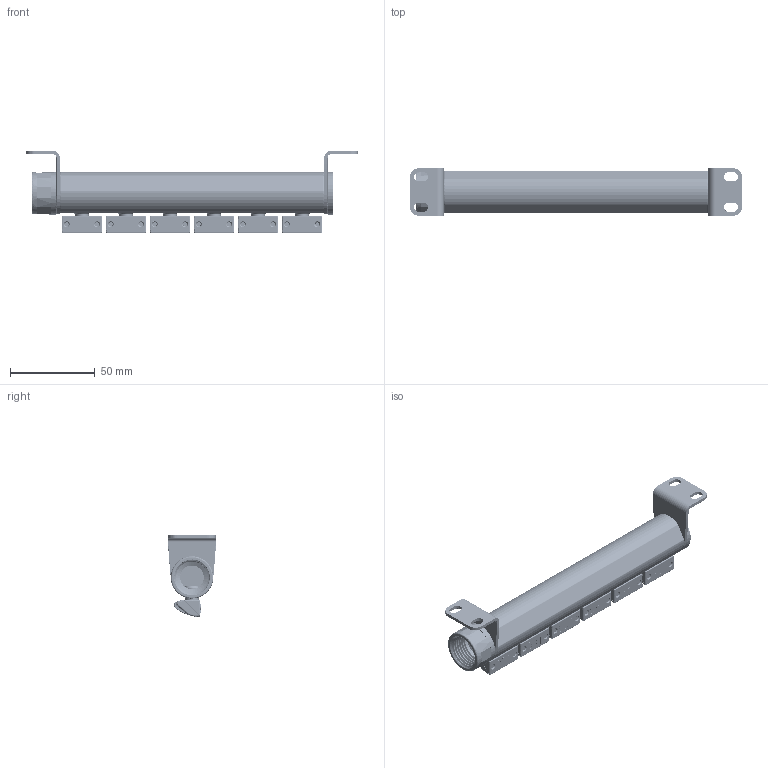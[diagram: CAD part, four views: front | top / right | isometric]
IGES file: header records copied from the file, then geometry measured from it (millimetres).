
Start section: SolidWorks IGES file using analytic representation for surfaces
Global section: file name: \\silv-file01\public$\SILVENT AB\ENGINEERING\Drawings\ÖVRIGT\IGES\Silvent 336.IGS; native system: SolidWorks 2016; preprocessor: SolidWorks 2016; author: a.olander; date: 190909.091126; units: millimetre
Bounding box: 196 x 28 x 48.35 mm (x, y, z)
Surface area: 49730.2 mm2 (no closed solid volume)
Topology: 0 solids, 0 shells, 3009 faces, 29401 edges, 29317 vertices
Faces by surface type: bspline 2214, revolution 795
